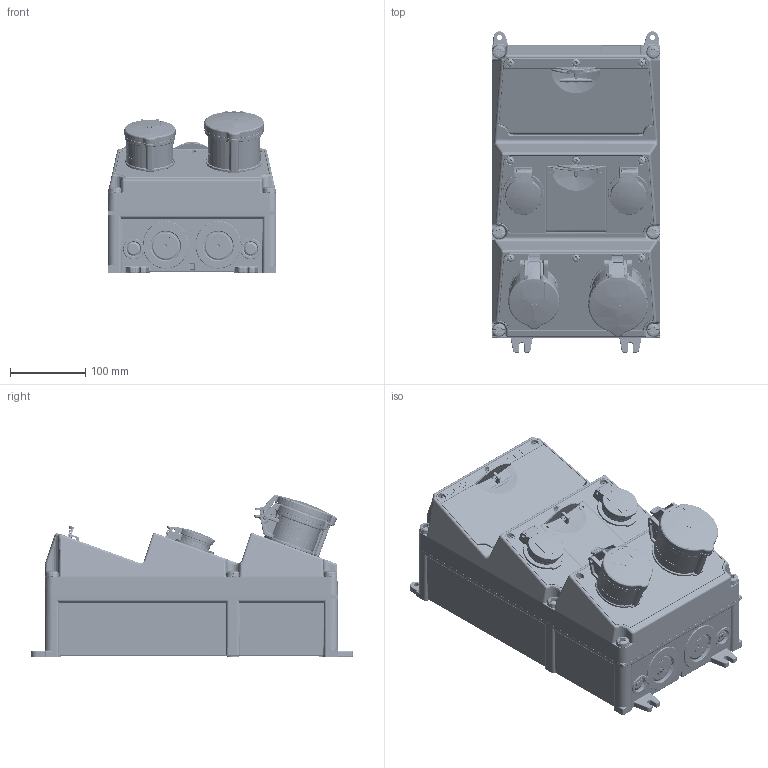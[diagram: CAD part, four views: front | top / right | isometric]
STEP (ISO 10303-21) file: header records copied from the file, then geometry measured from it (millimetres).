
FILE_DESCRIPTION((''),'2;1');
FILE_NAME('930080-1_ASM_1_ASM','2018-05-25T',('kremer'),('MENNEKES'),'PRO/ENGINEER BY PARAMETRIC TECHNOLOGY CORPORATION, 2015440','PRO/ENGINEER BY PARAMETRIC TECHNOLOGY CORPORATION, 2015440','');
FILE_SCHEMA(('AUTOMOTIVE_DESIGN { 1 0 10303 214 1 1 1 1 }'));
Products named in the file (15): 3-4_SW_O_GRAU_1; MANIFOLD_SOLID_BREP_231342; MANIFOLD_SOLID_BREP_319705; MANIFOLD_SOLID_BREP_320042; MANIFOLD_SOLID_BREP_322521; FI_4POL_4TE_1_ASM; LS_3POL_3TE_1; LS_1POL_1TE_1; MP_LEER_GRAU_1; MP_FEN4_44_OBEN_GRAU_1; MP_FEN10_44_OBEN_GRAU_1; AMAXX_CEE_32_5_44_ROT_1; AMAXX_CEE_16_5_44_ROT_1; AMAXX_SCHUKO_44_BLAU_1; 930080-1_ASM_1_ASM
Assembly tree (17 placements, depth 3):
  930080-1_ASM_1_ASM
    3-4_SW_O_GRAU_1
    FI_4POL_4TE_1_ASM
      MANIFOLD_SOLID_BREP_231342
      MANIFOLD_SOLID_BREP_319705
      MANIFOLD_SOLID_BREP_320042
      MANIFOLD_SOLID_BREP_322521
    LS_3POL_3TE_1  x2
    LS_1POL_1TE_1  x2
    MP_LEER_GRAU_1
    MP_FEN4_44_OBEN_GRAU_1
    MP_FEN10_44_OBEN_GRAU_1
    AMAXX_CEE_32_5_44_ROT_1
    AMAXX_CEE_16_5_44_ROT_1
    AMAXX_SCHUKO_44_BLAU_1  x2
Bounding box: 225 x 428.2 x 215.76 mm (x, y, z)
Volume: 9516095.6 mm3; surface area: 1133453.4 mm2
Topology: 16 solids, 16 shells, 13424 faces, 37116 edges, 23740 vertices
Faces by surface type: plane 6530, cylinder 3739, bspline 1157, torus 1138, cone 370, sphere 298, extrusion 192
Entity records: 537479 total; most frequent: CARTESIAN_POINT 153393, ORIENTED_EDGE 63604, DIRECTION 56241, EDGE_CURVE 31802, VERTEX_POINT 20344, AXIS2_PLACEMENT_3D 19507, PRESENTATION_STYLE_ASSIGNMENT 19167, STYLED_ITEM 17853
